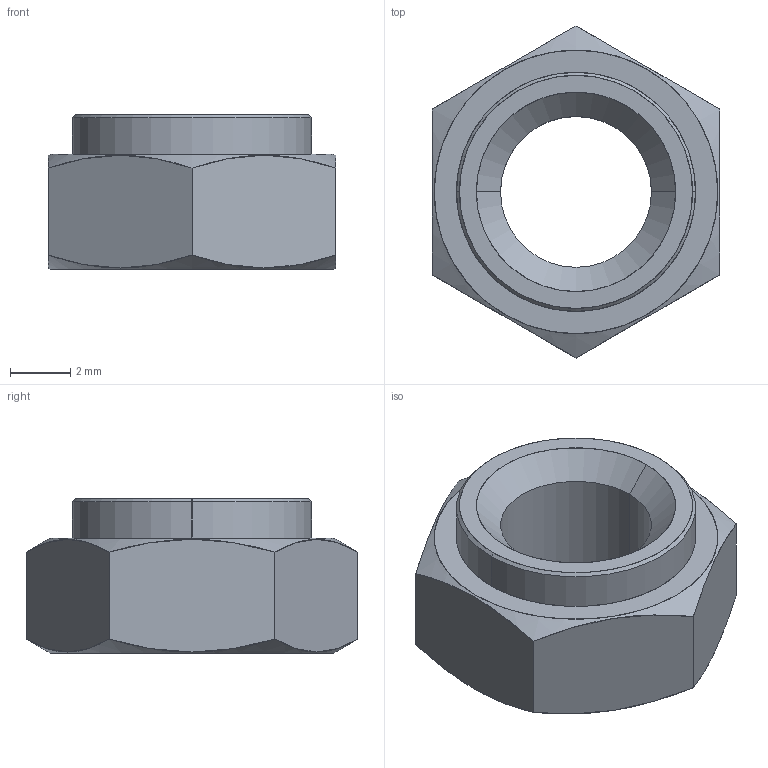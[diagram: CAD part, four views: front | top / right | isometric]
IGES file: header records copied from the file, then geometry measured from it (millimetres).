
Start section: SolidWorks IGES file using analytic representation for surfaces
Global section: file name: C:\Users\liam_\OneDrive\Desktop\Work\Mat Davis Pending 20181125\automotion\P SERIES\P0827.ZP_v2\P0827.ZP_v2_20181231_IGES\P0827.050-22G-ZP.igs; native system: SolidWorks 2017; preprocessor: SolidWorks 2017; author: liam_; date: 181231.110528; units: millimetre
Bounding box: 9.52 x 10.99 x 5.11 mm (x, y, z)
Surface area: 332.2 mm2 (no closed solid volume)
Topology: 0 solids, 0 shells, 23 faces, 376 edges, 376 vertices
Faces by surface type: revolution 14, bspline 9
